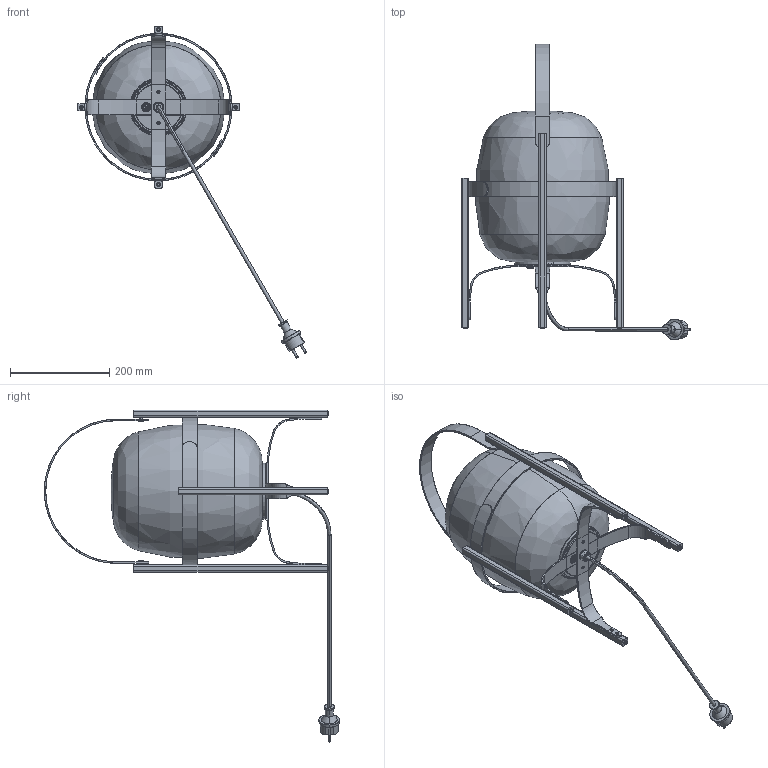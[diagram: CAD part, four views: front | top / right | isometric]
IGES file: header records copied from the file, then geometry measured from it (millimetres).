
Start section: SolidWorks IGES file using analytic representation for surfaces
Global section: file name: C:\Users\alex.movellan\Desktop\Temp Álex\Cesta exterior\web\CESTG01.IGS; native system: SolidWorks 2019; preprocessor: SolidWorks 2019; author: alex.movellan; date: 210909.170652; units: millimetre
Bounding box: 460.94 x 594.5 x 667.97 mm (x, y, z)
Surface area: 871659.8 mm2 (no closed solid volume)
Topology: 0 solids, 0 shells, 2134 faces, 22624 edges, 22522 vertices
Faces by surface type: bspline 1246, revolution 888
